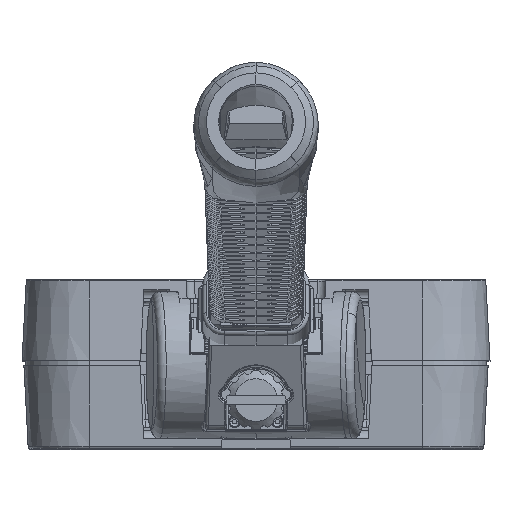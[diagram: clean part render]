
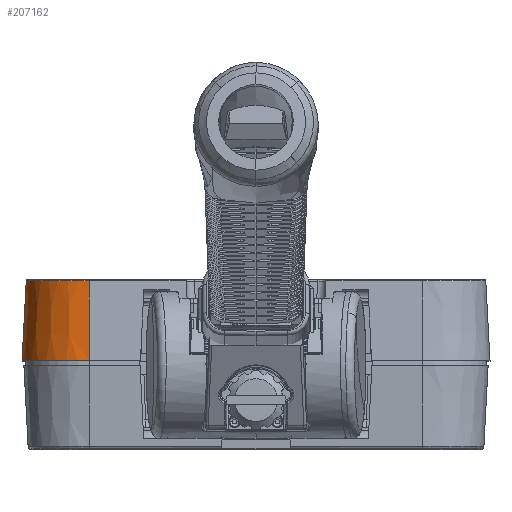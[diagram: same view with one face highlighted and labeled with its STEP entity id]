
A CAD part, top view. The second image highlights one B-rep face of the part: STEP entity #207162.
In plain terms, the highlighted conical face has half-angle 3 degrees and reference radius 6.23 mm.
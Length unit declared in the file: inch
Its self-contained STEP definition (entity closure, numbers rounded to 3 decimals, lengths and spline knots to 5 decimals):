
#186592=DIRECTION('',(0.,0.999,-0.052));
#186593=VECTOR('',#186592,0.29867);
#186594=CARTESIAN_POINT('',(-0.625,0.15,0.03309));
#186595=LINE('',#186594,#186593);
#186675=CARTESIAN_POINT('',(-0.625,0.44826,-0.22));
#186676=DIRECTION('',(0.,1.,0.));
#186677=DIRECTION('',(-1.,0.,0.));
#186678=AXIS2_PLACEMENT_3D('',#186675,#186676,#186677);
#186683=CARTESIAN_POINT('',(-0.625,0.15,-0.22));
#186684=DIRECTION('',(0.,1.,0.));
#186685=DIRECTION('',(-1.,0.,0.));
#186686=AXIS2_PLACEMENT_3D('',#186683,#186684,#186685);
#186691=DIRECTION('',(0.052,0.999,0.));
#186692=VECTOR('',#186691,0.29867);
#186693=CARTESIAN_POINT('',(-0.87809,0.15,-0.22));
#186694=LINE('',#186693,#186692);
#191468=CARTESIAN_POINT('',(-0.87809,0.15,-0.22));
#191469=CARTESIAN_POINT('',(-0.625,0.15,0.03309));
#191470=VERTEX_POINT('',#191468);
#191471=VERTEX_POINT('',#191469);
#192748=CARTESIAN_POINT('',(-0.625,0.44826,
0.01746));
#192750=VERTEX_POINT('',#192748);
#192758=CARTESIAN_POINT('',(-0.86246,0.44826,-0.22));
#192759=VERTEX_POINT('',#192758);
#207150=CARTESIAN_POINT('',(-0.625,0.29913,-0.22));
#207151=DIRECTION('',(0.,-1.,0.));
#207152=DIRECTION('',(-1.,0.,0.));
#207153=AXIS2_PLACEMENT_3D('',#207150,#207151,#207152);
#207154=CONICAL_SURFACE('',#207153,0.24528,3.);
#207155=ORIENTED_EDGE('',*,*,#207136,.T.);
#207156=ORIENTED_EDGE('',*,*,#207069,.F.);
#207157=ORIENTED_EDGE('',*,*,#203515,.F.);
#207159=ORIENTED_EDGE('',*,*,#207158,.T.);
#207160=EDGE_LOOP('',(#207155,#207156,#207157,#207159));
#207161=FACE_OUTER_BOUND('',#207160,.F.);
#207162=ADVANCED_FACE('',(#207161),#207154,.T.);
#186679=CIRCLE('',#186678,0.23746);
#186687=CIRCLE('',#186686,0.25309);
#203515=EDGE_CURVE('',#191470,#191471,#186687,.T.);
#207069=EDGE_CURVE('',#191471,#192750,#186595,.T.);
#207136=EDGE_CURVE('',#192759,#192750,#186679,.T.);
#207158=EDGE_CURVE('',#191470,#192759,#186694,.T.);
